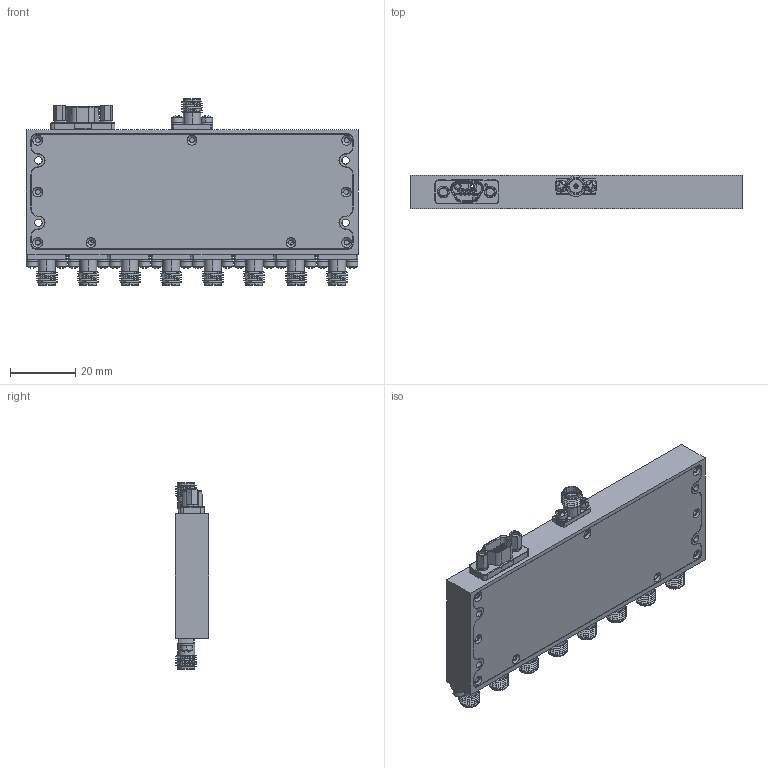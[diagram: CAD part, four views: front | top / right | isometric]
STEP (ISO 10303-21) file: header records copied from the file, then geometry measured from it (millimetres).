
FILE_DESCRIPTION (( 'STEP AP214' ), '1' );
FILE_NAME ('P8T-05R18-70-T-SFF MICROD.STEP', '2024-05-21T18:41:25', ( '' ), ( '' ), 'SwSTEP 2.0', 'SolidWorks 2023', '' );
FILE_SCHEMA (( 'AUTOMOTIVE_DESIGN' ));
Length unit declared in the file: inch
Products named in the file (1): P8T-05R18-70-T-SFF MICROD
Bounding box: 101.6 x 10.21 x 57.15 mm (x, y, z)
Surface area: 22448.4 mm2 (no closed solid volume)
Topology: 0 solids, 74 shells, 1597 faces, 6024 edges, 4550 vertices
Faces by surface type: plane 719, cylinder 504, cone 145, torus 144, sphere 55, bspline 30
Entity records: 96982 total; most frequent: CARTESIAN_POINT 24932, DIRECTION 10638, ORIENTED_EDGE 10431, EDGE_CURVE 6005, VERTEX_POINT 4550, AXIS2_PLACEMENT_3D 4071, CIRCLE 2503, LINE 2496
